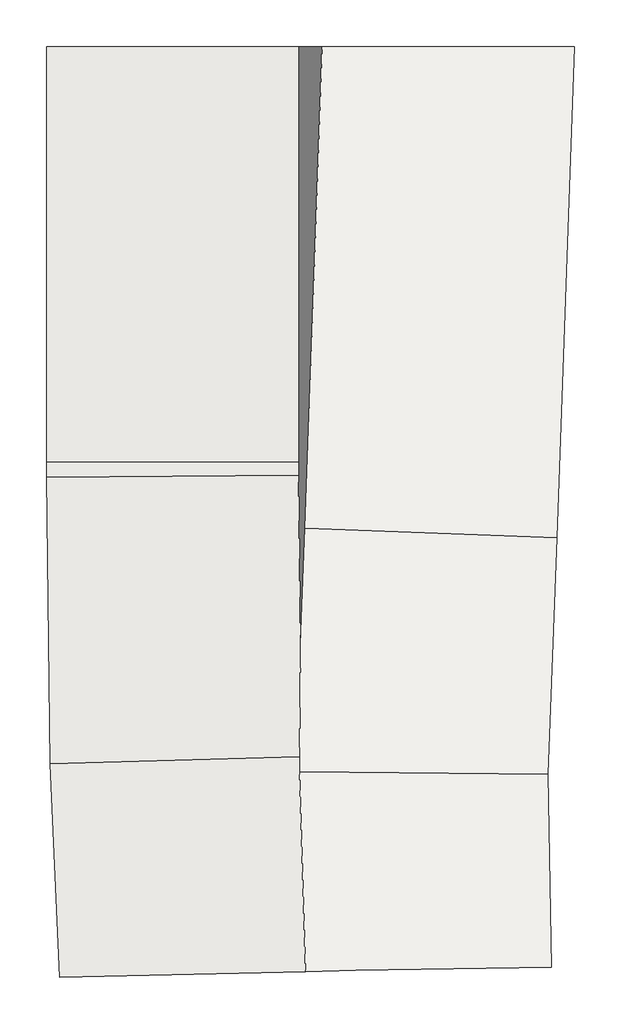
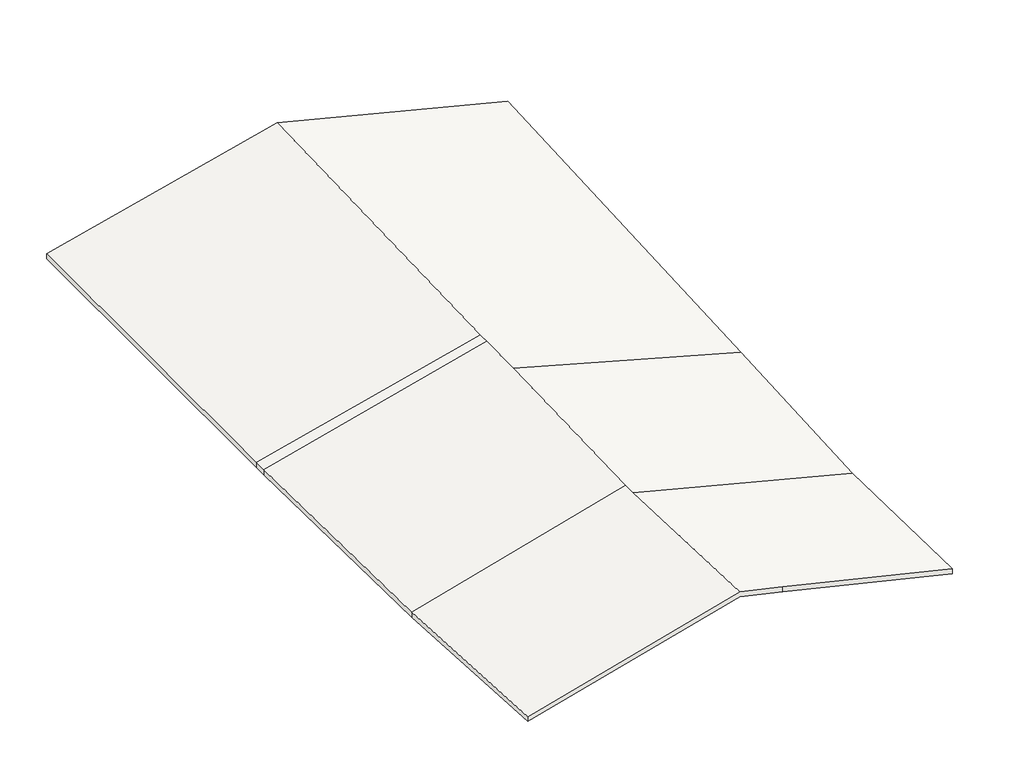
# One storey: 1 roof.
"""IFC4 building model written with IfcOpenShell, lengths in millimetres."""

from ifc_helpers import new_model, si_unit, origin, place, context, project, spatial, faceted_brep, element, save

model = new_model("IFC4")

# Units and contexts
model_context = context("Model", 3, world=origin())
ifc_project = project(units=[si_unit("LENGTHUNIT", "METRE", prefix="MILLI")], contexts=[model_context])

# Site, building, storey
site = spatial("IfcSite", under=ifc_project)
building = spatial("IfcBuilding", under=site)
storey = spatial("IfcBuildingStorey", under=building, Name="COBERTA - CALHA", Elevation=12330.0)

# Roof
placement = place(None, origin())
element("IfcRoof", 1, ObjectType="Genérico - 0.15 m", at=placement, inside=storey, context=model_context, shape_type="Brep", body=[
    faceted_brep([(5869.787439, -12512.3214501, 12330.0), (2459.854444, -12571.8420519, 13182.6131058), (1589.3832379, -12592.2893379, 13400.2869767), (1482.8836042, -9113.770037, 13411.7306969), (5811.2490205, -9158.6577044, 12330.0), (1482.1652265, -8855.6684633, 13414.3740255), (1532.1396712, -4876.8093546, 13439.8721399), (5968.669167, -5039.0374151, 12330.0), (1542.2210561, -3953.2844868, 13445.4109673), (1545.8476546, -3721.301791, 13446.5288898), (1671.9621271, 3503.7915045, 13478.0575079), (6266.9913266, 3503.7915045, 12330.0), (-2854.0899485, -8978.9279828, 12330.0), (-2691.4638642, -12692.8460299, 12330.0), (-2919.3165527, -3990.5794956, 12330.0), (-2920.2679046, -3729.4368733, 12330.0), (-2920.2679046, 3503.7915045, 12330.0), (2459.854444, -12571.8420519, 13285.6907465), (5869.787439, -12512.3214501, 12433.0776406), (5811.2490205, -9158.6577044, 12433.0776406), (1482.8836042, -9113.770037, 13514.8083375), (1589.3832379, -12592.2893379, 13503.3646174), (5968.669167, -5039.0374151, 12433.0776406), (1532.1396712, -4876.8093546, 13542.9497805), (1482.1652265, -8855.6684633, 13517.4516662), (6266.9913266, 3503.7915045, 12433.0776406), (1671.9621271, 3503.7915045, 13581.1351486), (1545.8476546, -3721.301791, 13549.6065304), (1542.2210561, -3953.2844868, 13548.4886079), (-2854.0899485, -8978.9279828, 12433.0776406), (-2691.4638642, -12692.8460299, 12433.0776406), (-2919.3165527, -3990.5794956, 12433.0776406), (-2920.2679046, 3503.7915045, 12433.0776406), (-2920.2679046, -3729.4368733, 12433.0776406)], [[[0, 1, 2, 3, 4]], [[4, 3, 5, 6, 7]], [[7, 6, 8, 9, 10, 11]], [[12, 5, 3, 2, 13]], [[14, 8, 6, 5, 12]], [[15, 16, 10, 9]], [[15, 9, 8, 14]], [[17, 18, 19, 20, 21]], [[19, 22, 23, 24, 20]], [[22, 25, 26, 27, 28, 23]], [[29, 30, 21, 20, 24]], [[31, 29, 24, 23, 28]], [[32, 33, 27, 26]], [[33, 31, 28, 27]], [[4, 19, 18, 0]], [[7, 22, 19, 4]], [[11, 25, 22, 7]], [[15, 33, 32, 16]], [[14, 31, 33, 15]], [[12, 29, 31, 14]], [[13, 30, 29, 12]], [[18, 17, 1, 0]], [[17, 21, 30, 13, 2, 1]], [[32, 26, 25, 11, 10, 16]]]),
])

save(model, "model.ifc")
